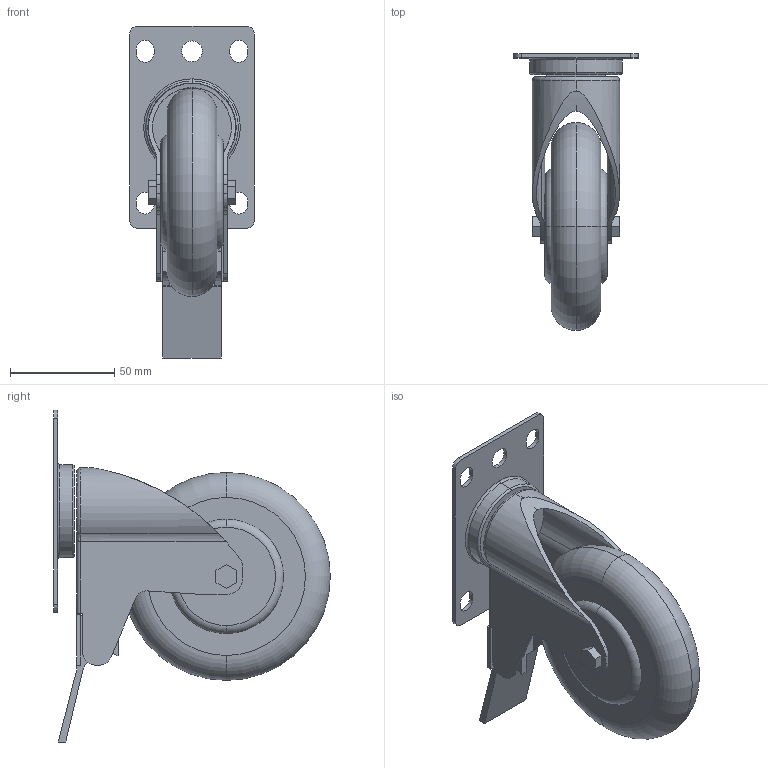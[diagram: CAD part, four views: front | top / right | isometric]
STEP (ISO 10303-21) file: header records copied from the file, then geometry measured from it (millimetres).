
FILE_DESCRIPTION (( 'STEP AP214' ), '1' );
FILE_NAME ('015.400.003.STEP', '2017-12-21T13:26:51', ( '' ), ( '' ), 'SwSTEP 2.0', 'SolidWorks 2016', '' );
FILE_SCHEMA (( 'AUTOMOTIVE_DESIGN' ));
Length unit declared in the file: millimetre
Products named in the file (1): 015.400.003
Bounding box: 60 x 133 x 159.6 mm (x, y, z)
Volume: 236779.9 mm3; surface area: 72203.3 mm2
Topology: 8 solids, 8 shells, 139 faces, 352 edges, 228 vertices
Faces by surface type: plane 76, cylinder 48, torus 13, bspline 2
Entity records: 4660 total; most frequent: CARTESIAN_POINT 1112, DIRECTION 735, ORIENTED_EDGE 700, EDGE_CURVE 350, AXIS2_PLACEMENT_3D 259, VERTEX_POINT 228, LINE 217, VECTOR 217
